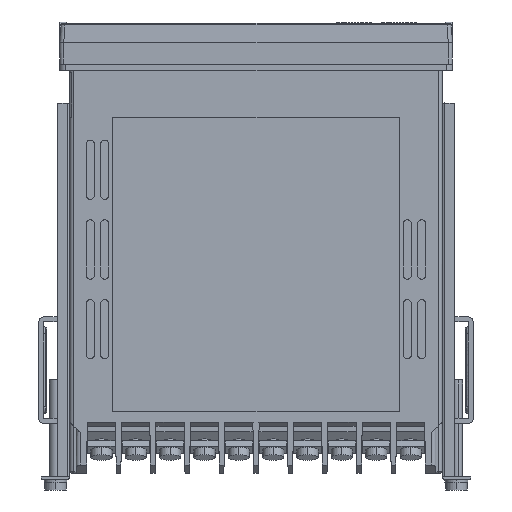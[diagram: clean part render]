
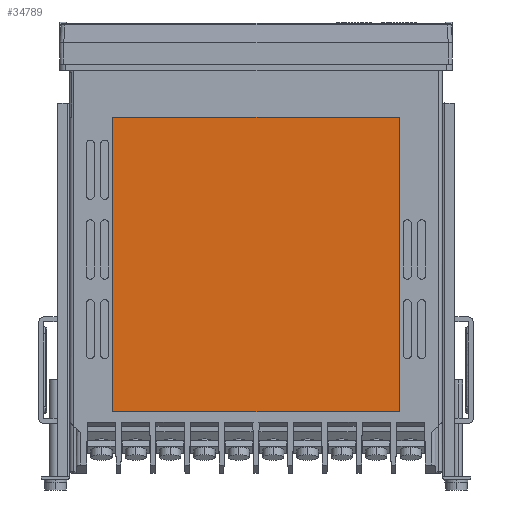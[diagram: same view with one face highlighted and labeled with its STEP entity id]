
A CAD part, left-side view. The second image highlights one B-rep face of the part: STEP entity #34789.
In plain terms, the highlighted planar face has unit normal (-1, 0, 0).
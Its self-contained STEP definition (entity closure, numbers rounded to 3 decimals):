
#2915 = DIRECTION ( 'NONE',  ( 0., 0., 1. ) ) ;
#3882 = EDGE_CURVE ( 'NONE', #35955, #16635, #71649, .T. ) ;
#4375 = CARTESIAN_POINT ( 'NONE',  ( -45.2, -35., -18.25 ) ) ;
#6361 = EDGE_CURVE ( 'NONE', #35955, #84326, #85816, .T. ) ;
#6378 = EDGE_CURVE ( 'NONE', #38770, #84326, #83524, .T. ) ;
#7123 = DIRECTION ( 'NONE',  ( 0., 0., 1. ) ) ;
#7959 = ORIENTED_EDGE ( 'NONE', *, *, #19595, .T. ) ;
#9448 = FACE_OUTER_BOUND ( 'NONE', #79984, .T. ) ;
#13603 = VECTOR ( 'NONE', #55466, 1000. ) ;
#16498 = VECTOR ( 'NONE', #20995, 1000. ) ;
#16635 = VERTEX_POINT ( 'NONE', #67748 ) ;
#16924 = ORIENTED_EDGE ( 'NONE', *, *, #3882, .T. ) ;
#17229 = PLANE ( 'NONE',  #69555 ) ;
#19595 = EDGE_CURVE ( 'NONE', #16635, #38770, #74550, .T. ) ;
#20892 = ORIENTED_EDGE ( 'NONE', *, *, #6361, .F. ) ;
#20995 = DIRECTION ( 'NONE',  ( 0., 0., 1. ) ) ;
#25444 = CARTESIAN_POINT ( 'NONE',  ( -45.2, 35., -18.25 ) ) ;
#27751 = VECTOR ( 'NONE', #29405, 1000. ) ;
#29405 = DIRECTION ( 'NONE',  ( 0., 1., 0. ) ) ;
#31873 = CARTESIAN_POINT ( 'NONE',  ( -45.2, 0., -5.25 ) ) ;
#33550 = CARTESIAN_POINT ( 'NONE',  ( -45.2, 35., -90.25 ) ) ;
#34789 = ADVANCED_FACE ( 'NONE', ( #9448 ), #17229, .T. ) ;
#35955 = VERTEX_POINT ( 'NONE', #82194 ) ;
#38770 = VERTEX_POINT ( 'NONE', #4375 ) ;
#42986 = CARTESIAN_POINT ( 'NONE',  ( -45.2, -35., -20.75 ) ) ;
#43387 = CARTESIAN_POINT ( 'NONE',  ( -45.2, 35., -90.25 ) ) ;
#46508 = DIRECTION ( 'NONE',  ( -1., 0., 0. ) ) ;
#55466 = DIRECTION ( 'NONE',  ( 0., -1., 0. ) ) ;
#66445 = VECTOR ( 'NONE', #7123, 1000. ) ;
#67748 = CARTESIAN_POINT ( 'NONE',  ( -45.2, -35., -90.25 ) ) ;
#68303 = ORIENTED_EDGE ( 'NONE', *, *, #6378, .T. ) ;
#69555 = AXIS2_PLACEMENT_3D ( 'NONE', #31873, #46508, #2915 ) ;
#71649 = LINE ( 'NONE', #33550, #13603 ) ;
#72950 = CARTESIAN_POINT ( 'NONE',  ( -45.2, -35., -18.25 ) ) ;
#74550 = LINE ( 'NONE', #42986, #16498 ) ;
#79984 = EDGE_LOOP ( 'NONE', ( #16924, #7959, #68303, #20892 ) ) ;
#82194 = CARTESIAN_POINT ( 'NONE',  ( -45.2, 35., -90.25 ) ) ;
#83524 = LINE ( 'NONE', #72950, #27751 ) ;
#84326 = VERTEX_POINT ( 'NONE', #25444 ) ;
#85816 = LINE ( 'NONE', #43387, #66445 ) ;
